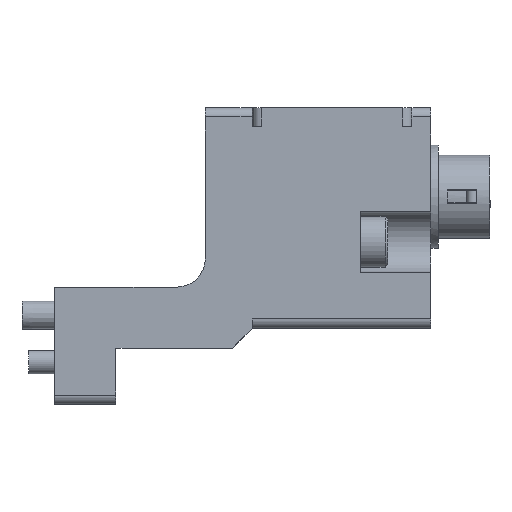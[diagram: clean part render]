
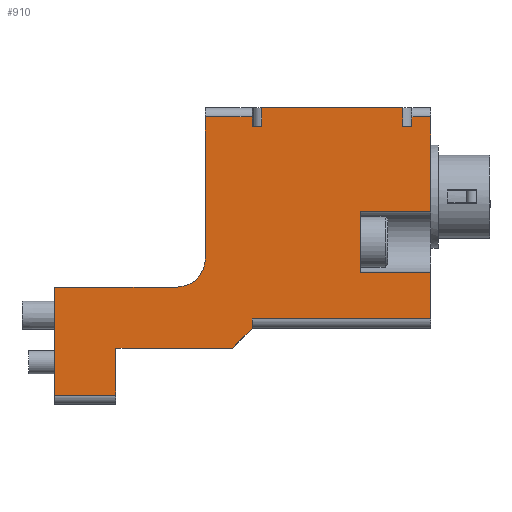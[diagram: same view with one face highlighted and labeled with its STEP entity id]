
A CAD part, left-side view. The second image highlights one B-rep face of the part: STEP entity #910.
In plain terms, the highlighted planar face has unit normal (-1, 0, 0).
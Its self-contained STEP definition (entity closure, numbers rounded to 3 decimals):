
#910=ADVANCED_FACE('',(#2579),#2580,.F.);
#2579=FACE_OUTER_BOUND('',#5051,.T.);
#2580=PLANE('',#5052);
#5051=EDGE_LOOP('',(#8302,#8303,#8304,#8305,#8306,#8307,#8308,#8309,#8310,#8311,#8312,#8313,#8314,#8315,#8316,#8317,#8318,#8319,#8320,#8321,#8322,#8323,#8324,#8325));
#5052=AXIS2_PLACEMENT_3D('',#8326,#8327,#8328);
#8302=ORIENTED_EDGE('',*,*,#12782,.T.);
#8303=ORIENTED_EDGE('',*,*,#12979,.T.);
#8304=ORIENTED_EDGE('',*,*,#12980,.T.);
#8305=ORIENTED_EDGE('',*,*,#12981,.T.);
#8306=ORIENTED_EDGE('',*,*,#12964,.T.);
#8307=ORIENTED_EDGE('',*,*,#12982,.T.);
#8308=ORIENTED_EDGE('',*,*,#12983,.F.);
#8309=ORIENTED_EDGE('',*,*,#12984,.T.);
#8310=ORIENTED_EDGE('',*,*,#12985,.T.);
#8311=ORIENTED_EDGE('',*,*,#12986,.T.);
#8312=ORIENTED_EDGE('',*,*,#12987,.T.);
#8313=ORIENTED_EDGE('',*,*,#12988,.T.);
#8314=ORIENTED_EDGE('',*,*,#12976,.T.);
#8315=ORIENTED_EDGE('',*,*,#12989,.T.);
#8316=ORIENTED_EDGE('',*,*,#12918,.F.);
#8317=ORIENTED_EDGE('',*,*,#12990,.T.);
#8318=ORIENTED_EDGE('',*,*,#12959,.T.);
#8319=ORIENTED_EDGE('',*,*,#12991,.T.);
#8320=ORIENTED_EDGE('',*,*,#12992,.T.);
#8321=ORIENTED_EDGE('',*,*,#12993,.F.);
#8322=ORIENTED_EDGE('',*,*,#12994,.T.);
#8323=ORIENTED_EDGE('',*,*,#12995,.T.);
#8324=ORIENTED_EDGE('',*,*,#12908,.F.);
#8325=ORIENTED_EDGE('',*,*,#12996,.T.);
#8326=CARTESIAN_POINT('',(-16.0,-38.0,-1.4));
#8327=DIRECTION('',(1.0,0.0,0.0));
#8328=DIRECTION('',(0.0,1.0,0.0));
#12782=EDGE_CURVE('',#14180,#14181,#14182,.T.);
#12908=EDGE_CURVE('',#14388,#14390,#14391,.T.);
#12918=EDGE_CURVE('',#14407,#14408,#14409,.T.);
#12959=EDGE_CURVE('',#14483,#14481,#14484,.T.);
#12964=EDGE_CURVE('',#14489,#14490,#14491,.T.);
#12976=EDGE_CURVE('',#14509,#14507,#14510,.T.);
#12979=EDGE_CURVE('',#14181,#14513,#14514,.T.);
#12980=EDGE_CURVE('',#14513,#14515,#14516,.T.);
#12981=EDGE_CURVE('',#14515,#14489,#14517,.T.);
#12982=EDGE_CURVE('',#14490,#14518,#14519,.T.);
#12983=EDGE_CURVE('',#14520,#14518,#14521,.T.);
#12984=EDGE_CURVE('',#14520,#14522,#14523,.T.);
#12985=EDGE_CURVE('',#14522,#14524,#14525,.T.);
#12986=EDGE_CURVE('',#14524,#14526,#14527,.T.);
#12987=EDGE_CURVE('',#14526,#14528,#14529,.T.);
#12988=EDGE_CURVE('',#14528,#14509,#14530,.T.);
#12989=EDGE_CURVE('',#14507,#14408,#14531,.T.);
#12990=EDGE_CURVE('',#14407,#14483,#14532,.T.);
#12991=EDGE_CURVE('',#14481,#14533,#14534,.T.);
#12992=EDGE_CURVE('',#14533,#14535,#14536,.T.);
#12993=EDGE_CURVE('',#14537,#14535,#14538,.T.);
#12994=EDGE_CURVE('',#14537,#14539,#14540,.T.);
#12995=EDGE_CURVE('',#14539,#14390,#14541,.T.);
#12996=EDGE_CURVE('',#14388,#14180,#14542,.T.);
#14180=VERTEX_POINT('',#16167);
#14181=VERTEX_POINT('',#16168);
#14182=LINE('',#16169,#16170);
#14388=VERTEX_POINT('',#16450);
#14390=VERTEX_POINT('',#16452);
#14391=LINE('',#16453,#16454);
#14407=VERTEX_POINT('',#16474);
#14408=VERTEX_POINT('',#16475);
#14409=LINE('',#16476,#16477);
#14481=VERTEX_POINT('',#16581);
#14483=VERTEX_POINT('',#16584);
#14484=LINE('',#16585,#16586);
#14489=VERTEX_POINT('',#16593);
#14490=VERTEX_POINT('',#16594);
#14491=CIRCLE('',#16595,3.0);
#14507=VERTEX_POINT('',#16615);
#14509=VERTEX_POINT('',#16617);
#14510=LINE('',#16618,#16619);
#14513=VERTEX_POINT('',#16622);
#14514=LINE('',#16623,#16624);
#14515=VERTEX_POINT('',#16625);
#14516=LINE('',#16626,#16627);
#14517=LINE('',#16628,#16629);
#14518=VERTEX_POINT('',#16630);
#14519=LINE('',#16631,#16632);
#14520=VERTEX_POINT('',#16633);
#14521=LINE('',#16634,#16635);
#14522=VERTEX_POINT('',#16636);
#14523=LINE('',#16637,#16638);
#14524=VERTEX_POINT('',#16639);
#14525=LINE('',#16640,#16641);
#14526=VERTEX_POINT('',#16642);
#14527=LINE('',#16643,#16644);
#14528=VERTEX_POINT('',#16645);
#14529=LINE('',#16646,#16647);
#14530=LINE('',#16648,#16649);
#14531=LINE('',#16650,#16651);
#14532=LINE('',#16652,#16653);
#14533=VERTEX_POINT('',#16654);
#14534=LINE('',#16655,#16656);
#14535=VERTEX_POINT('',#16657);
#14536=LINE('',#16658,#16659);
#14537=VERTEX_POINT('',#16660);
#14538=LINE('',#16661,#16662);
#14539=VERTEX_POINT('',#16663);
#14540=LINE('',#16664,#16665);
#14541=LINE('',#16666,#16667);
#14542=LINE('',#16668,#16669);
#16167=CARTESIAN_POINT('',(-16.0,-22.0,20.1));
#16168=CARTESIAN_POINT('',(-16.0,-21.0,20.1));
#16169=CARTESIAN_POINT('',(-16.0,-38.0,20.1));
#16170=VECTOR('',#18770,1.0);
#16450=CARTESIAN_POINT('',(-16.0,-22.0,22.1));
#16452=CARTESIAN_POINT('',(-16.0,-37.0,22.1));
#16453=CARTESIAN_POINT('',(-16.0,-21.0,22.1));
#16454=VECTOR('',#18923,1.0);
#16474=CARTESIAN_POINT('',(-16.0,-32.5,4.55));
#16475=CARTESIAN_POINT('',(-16.0,-40.0,4.55));
#16476=CARTESIAN_POINT('',(-16.0,-32.5,4.55));
#16477=VECTOR('',#18937,1.0);
#16581=CARTESIAN_POINT('',(-16.0,-40.0,11.05));
#16584=CARTESIAN_POINT('',(-16.0,-32.5,11.05));
#16585=CARTESIAN_POINT('',(-16.0,-32.5,11.05));
#16586=VECTOR('',#18980,1.0);
#16593=CARTESIAN_POINT('',(-16.0,-16.0,6.));
#16594=CARTESIAN_POINT('',(-16.0,-13.0,3.));
#16595=AXIS2_PLACEMENT_3D('',#18983,#18984,#18985);
#16615=CARTESIAN_POINT('',(-16.0,-40.0,-0.4));
#16617=CARTESIAN_POINT('',(-16.0,-21.0,-0.4));
#16618=CARTESIAN_POINT('',(-16.0,-38.0,-0.4));
#16619=VECTOR('',#19002,1.0);
#16622=CARTESIAN_POINT('',(-16.0,-21.0,21.1));
#16623=CARTESIAN_POINT('',(-16.0,-21.0,-1.4));
#16624=VECTOR('',#19006,1.0);
#16625=CARTESIAN_POINT('',(-16.0,-16.0,21.1));
#16626=CARTESIAN_POINT('',(-16.0,-21.0,21.1));
#16627=VECTOR('',#19007,1.0);
#16628=CARTESIAN_POINT('',(-16.0,-16.0,22.1));
#16629=VECTOR('',#19008,1.0);
#16630=CARTESIAN_POINT('',(-16.0,0.,3.));
#16631=CARTESIAN_POINT('',(-16.0,-16.0,3.));
#16632=VECTOR('',#19009,1.0);
#16633=CARTESIAN_POINT('',(-16.0,0.,-8.5));
#16634=CARTESIAN_POINT('',(-16.0,0.,6.6));
#16635=VECTOR('',#19010,1.0);
#16636=CARTESIAN_POINT('',(-16.0,-6.5,-8.5));
#16637=CARTESIAN_POINT('',(-16.0,-6.5,-8.5));
#16638=VECTOR('',#19011,1.0);
#16639=CARTESIAN_POINT('',(-16.0,-6.5,-3.5));
#16640=CARTESIAN_POINT('',(-16.0,-6.5,-9.5));
#16641=VECTOR('',#19012,1.0);
#16642=CARTESIAN_POINT('',(-16.0,-18.9,-3.5));
#16643=CARTESIAN_POINT('',(-16.0,-6.5,-3.5));
#16644=VECTOR('',#19013,1.0);
#16645=CARTESIAN_POINT('',(-16.0,-21.0,-1.4));
#16646=CARTESIAN_POINT('',(-16.0,-21.0,-1.4));
#16647=VECTOR('',#19014,1.0);
#16648=CARTESIAN_POINT('',(-16.0,-21.0,-1.4));
#16649=VECTOR('',#19015,1.0);
#16650=CARTESIAN_POINT('',(-16.0,-40.0,-1.4));
#16651=VECTOR('',#19016,1.0);
#16652=CARTESIAN_POINT('',(-16.0,-32.5,4.55));
#16653=VECTOR('',#19017,1.0);
#16654=CARTESIAN_POINT('',(-16.0,-40.0,21.1));
#16655=CARTESIAN_POINT('',(-16.0,-40.0,-1.4));
#16656=VECTOR('',#19018,1.0);
#16657=CARTESIAN_POINT('',(-16.0,-38.0,21.1));
#16658=CARTESIAN_POINT('',(-16.0,-40.0,21.1));
#16659=VECTOR('',#19019,1.0);
#16660=CARTESIAN_POINT('',(-16.0,-38.0,20.1));
#16661=CARTESIAN_POINT('',(-16.0,-38.0,-1.4));
#16662=VECTOR('',#19020,1.0);
#16663=CARTESIAN_POINT('',(-16.0,-37.0,20.1));
#16664=CARTESIAN_POINT('',(-16.0,-38.0,20.1));
#16665=VECTOR('',#19021,1.0);
#16666=CARTESIAN_POINT('',(-16.0,-37.0,20.1));
#16667=VECTOR('',#19022,1.0);
#16668=CARTESIAN_POINT('',(-16.0,-22.0,20.1));
#16669=VECTOR('',#19023,1.0);
#18770=DIRECTION('',(0.0,1.0,0.0));
#18923=DIRECTION('',(0.0,-1.0,0.0));
#18937=DIRECTION('',(0.0,-1.0,0.0));
#18980=DIRECTION('',(0.0,-1.0,0.0));
#18983=CARTESIAN_POINT('',(-16.0,-13.0,6.));
#18984=DIRECTION('',(1.0,0.0,0.0));
#18985=DIRECTION('',(0.0,0.0,-1.0));
#19002=DIRECTION('',(0.0,-1.0,0.0));
#19006=DIRECTION('',(0.0,0.0,1.0));
#19007=DIRECTION('',(0.0,1.0,0.0));
#19008=DIRECTION('',(0.0,0.0,-1.0));
#19009=DIRECTION('',(0.0,1.0,0.0));
#19010=DIRECTION('',(0.0,0.0,1.0));
#19011=DIRECTION('',(0.0,-1.0,0.0));
#19012=DIRECTION('',(0.0,0.0,1.0));
#19013=DIRECTION('',(0.0,-1.0,0.0));
#19014=DIRECTION('',(0.0,-0.707,0.707));
#19015=DIRECTION('',(0.0,0.0,1.0));
#19016=DIRECTION('',(0.0,0.0,1.0));
#19017=DIRECTION('',(0.0,0.0,1.0));
#19018=DIRECTION('',(0.0,0.0,1.0));
#19019=DIRECTION('',(0.0,1.0,0.0));
#19020=DIRECTION('',(0.0,0.0,1.0));
#19021=DIRECTION('',(0.0,1.0,0.0));
#19022=DIRECTION('',(0.0,0.0,1.0));
#19023=DIRECTION('',(0.0,0.0,-1.0));
